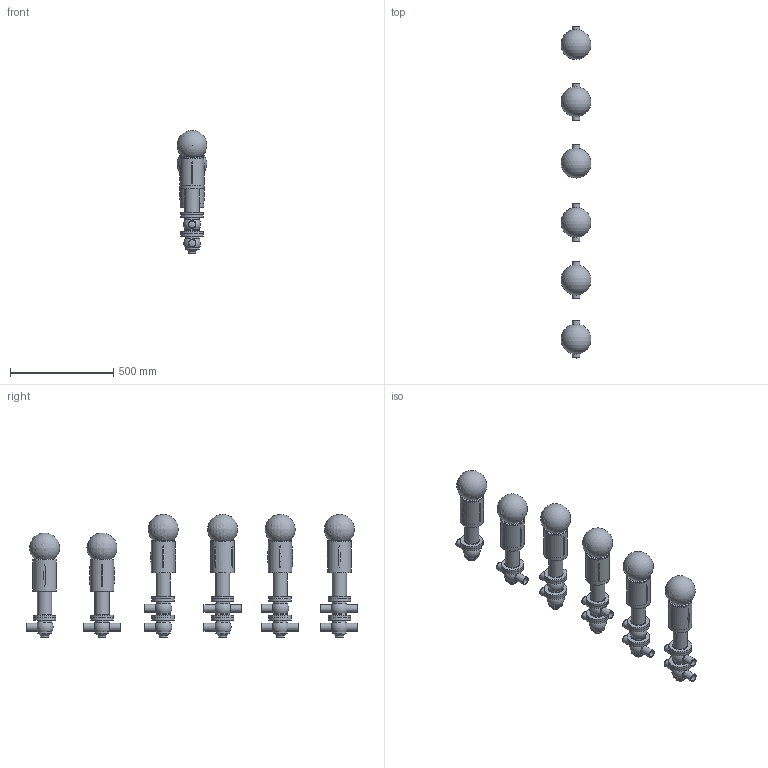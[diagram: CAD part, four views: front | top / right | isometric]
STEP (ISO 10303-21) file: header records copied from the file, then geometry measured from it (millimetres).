
FILE_DESCRIPTION(/* description */ (''),/* implementation_level */ '2;1');
FILE_NAME(/* name */ 'C:\Users\marz-m\Desktop\PDF\BBZQ 3D STEP\BBZQ-DN381-CIL.134.stp',/* time_stamp */ '2018-04-13T14:45:02+02:00',/* author */ ('marz-m'),/* organization */ (''),/* preprocessor_version */ 'ST-DEVELOPER v17',/* originating_system */ 'Autodesk Inventor 2018',/* authorisation */ '');
FILE_SCHEMA (('AUTOMOTIVE_DESIGN { 1 0 10303 214 3 1 1 }'));
Length unit declared in the file: millimetre
Products named in the file (8): BBZQ-CIL.134-DN381; COR-INF-L-BBZQ-DN381X2.5-SALD; COR-INF-T-BBZQ-DN381X2.5-SALD; assemblaggio dn40 per cil 108-156; CIL108; SAGOMA-GIOTTO-; CORPO-SUP-INF-BBZQ-L-DN381X2.5-SALD; CORPO-SUP-SUP-BBZQ-T-DN381-SALD
Assembly tree (28 placements, depth 2):
  BBZQ-CIL.134-DN381
    COR-INF-L-BBZQ-DN381X2.5-SALD  x3
    COR-INF-T-BBZQ-DN381X2.5-SALD  x3
    assemblaggio dn40 per cil 108-156  x6
    CIL108  x6
    SAGOMA-GIOTTO-  x6
    CORPO-SUP-INF-BBZQ-L-DN381X2.5-SALD  x2
    CORPO-SUP-SUP-BBZQ-T-DN381-SALD  x2
Bounding box: 144.47 x 1605.61 x 595.47 mm (x, y, z)
Volume: 19699294.3 mm3; surface area: 2172937.1 mm2
Topology: 28 solids, 34 shells, 392 faces, 939 edges, 698 vertices
Faces by surface type: plane 121, cylinder 112, cone 66, torus 62, sphere 31
Full cylindrical faces by diameter (mm): 20 x12, 33.1 x21, 38.1 x21, 68 x20, 69 x6, 108.5 x6, 109 x20, 114 x6
Entity records: 3925 total; most frequent: CARTESIAN_POINT 864, DIRECTION 679, ORIENTED_EDGE 496, AXIS2_PLACEMENT_3D 319, EDGE_CURVE 248, VERTEX_POINT 184, CIRCLE 175, EDGE_LOOP 136
